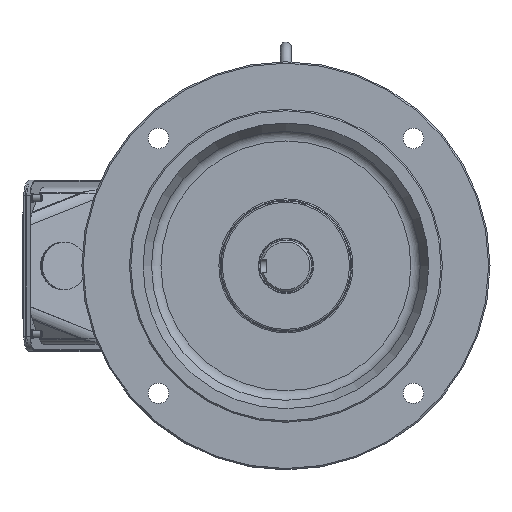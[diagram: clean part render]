
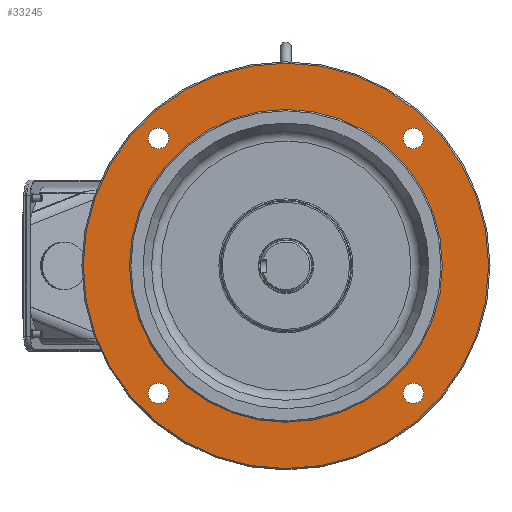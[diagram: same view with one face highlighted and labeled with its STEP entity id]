
A CAD part, front view. The second image highlights one B-rep face of the part: STEP entity #33245.
In plain terms, the highlighted planar face has unit normal (0, -1, 0).
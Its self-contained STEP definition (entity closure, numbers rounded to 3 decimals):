
#1197=CIRCLE('',#35496,7.5);
#1199=CIRCLE('',#35499,7.5);
#1202=CIRCLE('',#35503,115.);
#1209=CIRCLE('',#35513,149.);
#1210=CIRCLE('',#35514,7.5);
#1211=CIRCLE('',#35515,7.5);
#6106=ORIENTED_EDGE('',*,*,#13688,.T.);
#6107=ORIENTED_EDGE('',*,*,#13689,.F.);
#6108=ORIENTED_EDGE('',*,*,#13681,.F.);
#6109=ORIENTED_EDGE('',*,*,#13678,.F.);
#6110=ORIENTED_EDGE('',*,*,#13676,.F.);
#6111=ORIENTED_EDGE('',*,*,#13690,.F.);
#13676=EDGE_CURVE('',#17652,#17652,#1197,.T.);
#13678=EDGE_CURVE('',#17654,#17654,#1199,.T.);
#13681=EDGE_CURVE('',#17657,#17657,#1202,.T.);
#13688=EDGE_CURVE('',#17664,#17664,#1209,.T.);
#13689=EDGE_CURVE('',#17665,#17665,#1210,.T.);
#13690=EDGE_CURVE('',#17666,#17666,#1211,.T.);
#17652=VERTEX_POINT('',#53337);
#17654=VERTEX_POINT('',#53342);
#17657=VERTEX_POINT('',#53349);
#17664=VERTEX_POINT('',#53366);
#17665=VERTEX_POINT('',#53368);
#17666=VERTEX_POINT('',#53370);
#23179=EDGE_LOOP('',(#6106));
#23180=EDGE_LOOP('',(#6107));
#23181=EDGE_LOOP('',(#6108));
#23182=EDGE_LOOP('',(#6109));
#23183=EDGE_LOOP('',(#6110));
#23184=EDGE_LOOP('',(#6111));
#25419=FACE_BOUND('',#23179,.T.);
#25420=FACE_BOUND('',#23180,.T.);
#25421=FACE_BOUND('',#23181,.T.);
#25422=FACE_BOUND('',#23182,.T.);
#25423=FACE_BOUND('',#23183,.T.);
#25424=FACE_BOUND('',#23184,.T.);
#27307=PLANE('',#35512);
#33245=ADVANCED_FACE('',(#25419,#25420,#25421,#25422,#25423,#25424),#27307,
 .T.);
#35496=AXIS2_PLACEMENT_3D('',#53336,#40076,#40077);
#35499=AXIS2_PLACEMENT_3D('',#53341,#40082,#40083);
#35503=AXIS2_PLACEMENT_3D('',#53348,#40090,#40091);
#35512=AXIS2_PLACEMENT_3D('',#53364,#40108,#40109);
#35513=AXIS2_PLACEMENT_3D('',#53365,#40110,#40111);
#35514=AXIS2_PLACEMENT_3D('',#53367,#40112,#40113);
#35515=AXIS2_PLACEMENT_3D('',#53369,#40114,#40115);
#40076=DIRECTION('',(0.,-1.,0.));
#40077=DIRECTION('',(-1.,0.,0.));
#40082=DIRECTION('',(0.,-1.,0.));
#40083=DIRECTION('',(0.,0.,1.));
#40090=DIRECTION('',(0.,-1.,0.));
#40091=DIRECTION('',(1.,0.,0.));
#40108=DIRECTION('',(0.,-1.,0.));
#40109=DIRECTION('',(1.,0.,0.));
#40110=DIRECTION('',(0.,-1.,0.));
#40111=DIRECTION('',(1.,0.,0.));
#40112=DIRECTION('',(0.,-1.,0.));
#40113=DIRECTION('',(0.,0.,-1.));
#40114=DIRECTION('',(0.,-1.,0.));
#40115=DIRECTION('',(1.,0.,0.));
#53336=CARTESIAN_POINT('',(93.692,4.,-93.692));
#53337=CARTESIAN_POINT('',(86.192,4.,-93.692));
#53341=CARTESIAN_POINT('',(-93.692,4.,-93.692));
#53342=CARTESIAN_POINT('',(-93.692,4.,-86.192));
#53348=CARTESIAN_POINT('',(0.,4.,0.));
#53349=CARTESIAN_POINT('',(115.,4.,0.));
#53364=CARTESIAN_POINT('',(0.,4.,115.));
#53365=CARTESIAN_POINT('',(0.,4.,0.));
#53366=CARTESIAN_POINT('',(149.,4.,0.));
#53367=CARTESIAN_POINT('',(93.692,4.,93.692));
#53368=CARTESIAN_POINT('',(93.692,4.,86.192));
#53369=CARTESIAN_POINT('',(-93.692,4.,93.692));
#53370=CARTESIAN_POINT('',(-86.192,4.,93.692));
